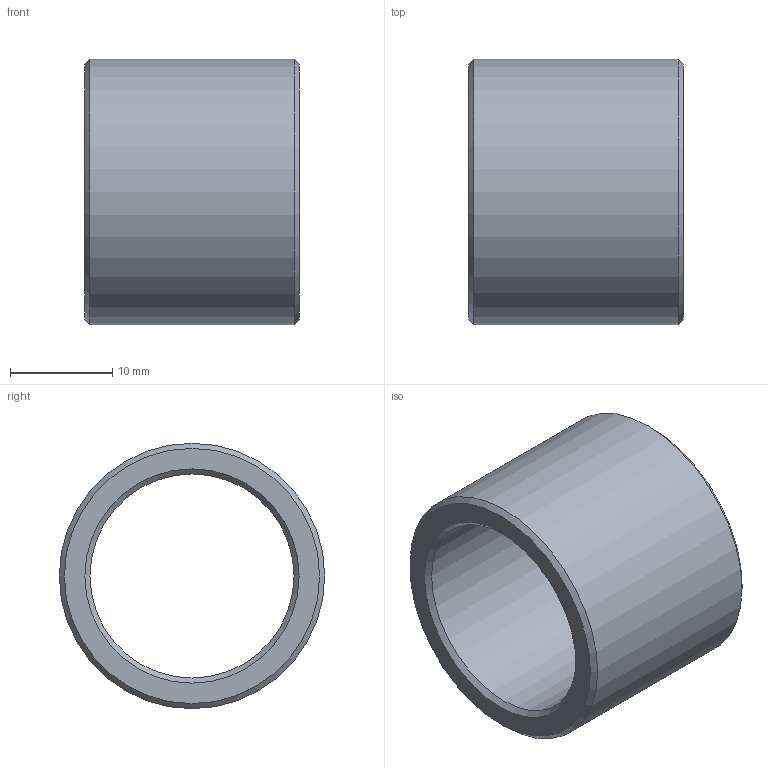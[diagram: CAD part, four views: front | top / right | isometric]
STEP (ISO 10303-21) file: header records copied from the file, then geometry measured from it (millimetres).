
FILE_DESCRIPTION(/* description */ (''),/* implementation_level */ '2;1');
FILE_NAME(/* name */ '',/* time_stamp */ '2025-01-09T17:57:52+09:00',/* author */ ('jhkim'),/* organization */ (''),/* preprocessor_version */ 'ST-DEVELOPER v20',/* originating_system */ 'Autodesk Inventor 2025',/* authorisation */ '');
FILE_SCHEMA (('AUTOMOTIVE_DESIGN { 1 0 10303 214 3 1 1 }'));
Length unit declared in the file: millimetre
Products named in the file (1): 칼라
Bounding box: 21 x 26 x 26 mm (x, y, z)
Volume: 4516 mm3; surface area: 3383.7 mm2
Topology: 1 solids, 1 shells, 8 faces, 16 edges, 10 vertices
Faces by surface type: cone 4, plane 2, cylinder 2
Full cylindrical faces by diameter (mm): 20 x1, 26 x1
Entity records: 261 total; most frequent: DIRECTION 44, CARTESIAN_POINT 35, ORIENTED_EDGE 32, AXIS2_PLACEMENT_3D 19, EDGE_CURVE 16, EDGE_LOOP 10, CIRCLE 10, VERTEX_POINT 10
